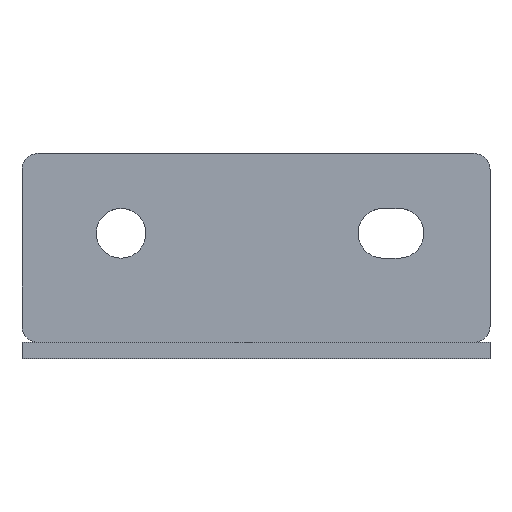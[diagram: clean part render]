
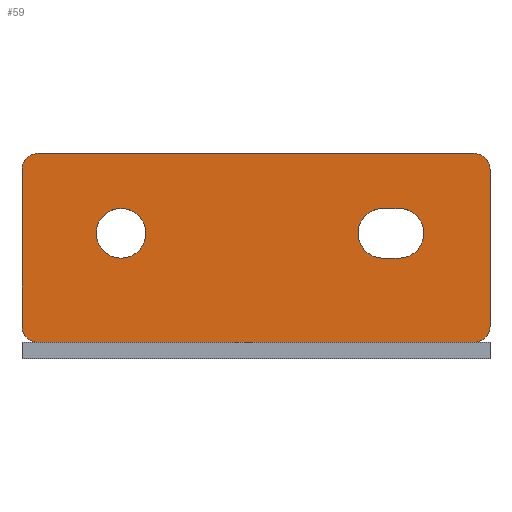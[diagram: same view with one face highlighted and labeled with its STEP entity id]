
A CAD part, top view. The second image highlights one B-rep face of the part: STEP entity #59.
In plain terms, the highlighted planar face has unit normal (0, 0, 1).
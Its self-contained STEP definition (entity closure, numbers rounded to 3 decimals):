
#21 = EDGE_CURVE('',#22,#24,#26,.T.);
#22 = VERTEX_POINT('',#23);
#23 = CARTESIAN_POINT('',(0.,3.,7.5));
#24 = VERTEX_POINT('',#25);
#25 = CARTESIAN_POINT('',(3.,0.,7.5));
#26 = CIRCLE('',#27,3.);
#27 = AXIS2_PLACEMENT_3D('',#28,#29,#30);
#28 = CARTESIAN_POINT('',(3.,3.,7.5));
#29 = DIRECTION('',(0.,0.,1.));
#30 = DIRECTION('',(1.,0.,-0.));
#59 = ADVANCED_FACE('',(#60,#120,#131),#167,.T.);
#60 = FACE_BOUND('',#61,.T.);
#61 = EDGE_LOOP('',(#62,#63,#71,#80,#88,#97,#105,#114));
#62 = ORIENTED_EDGE('',*,*,#21,.T.);
#63 = ORIENTED_EDGE('',*,*,#64,.T.);
#64 = EDGE_CURVE('',#24,#65,#67,.T.);
#65 = VERTEX_POINT('',#66);
#66 = CARTESIAN_POINT('',(83.7,0.,7.5));
#67 = LINE('',#68,#69);
#68 = CARTESIAN_POINT('',(3.,0.,7.5));
#69 = VECTOR('',#70,1.);
#70 = DIRECTION('',(1.,0.,-0.));
#71 = ORIENTED_EDGE('',*,*,#72,.T.);
#72 = EDGE_CURVE('',#65,#73,#75,.T.);
#73 = VERTEX_POINT('',#74);
#74 = CARTESIAN_POINT('',(86.7,3.,7.5));
#75 = CIRCLE('',#76,3.);
#76 = AXIS2_PLACEMENT_3D('',#77,#78,#79);
#77 = CARTESIAN_POINT('',(83.7,3.,7.5));
#78 = DIRECTION('',(0.,0.,1.));
#79 = DIRECTION('',(1.,0.,-0.));
#80 = ORIENTED_EDGE('',*,*,#81,.T.);
#81 = EDGE_CURVE('',#73,#82,#84,.T.);
#82 = VERTEX_POINT('',#83);
#83 = CARTESIAN_POINT('',(86.7,32.,7.5));
#84 = LINE('',#85,#86);
#85 = CARTESIAN_POINT('',(86.7,3.,7.5));
#86 = VECTOR('',#87,1.);
#87 = DIRECTION('',(-0.,1.,0.));
#88 = ORIENTED_EDGE('',*,*,#89,.T.);
#89 = EDGE_CURVE('',#82,#90,#92,.T.);
#90 = VERTEX_POINT('',#91);
#91 = CARTESIAN_POINT('',(83.7,35.,7.5));
#92 = CIRCLE('',#93,3.);
#93 = AXIS2_PLACEMENT_3D('',#94,#95,#96);
#94 = CARTESIAN_POINT('',(83.7,32.,7.5));
#95 = DIRECTION('',(0.,0.,1.));
#96 = DIRECTION('',(1.,0.,-0.));
#97 = ORIENTED_EDGE('',*,*,#98,.F.);
#98 = EDGE_CURVE('',#99,#90,#101,.T.);
#99 = VERTEX_POINT('',#100);
#100 = CARTESIAN_POINT('',(3.,35.,7.5));
#101 = LINE('',#102,#103);
#102 = CARTESIAN_POINT('',(3.,35.,7.5));
#103 = VECTOR('',#104,1.);
#104 = DIRECTION('',(1.,0.,-0.));
#105 = ORIENTED_EDGE('',*,*,#106,.T.);
#106 = EDGE_CURVE('',#99,#107,#109,.T.);
#107 = VERTEX_POINT('',#108);
#108 = CARTESIAN_POINT('',(0.,32.,7.5));
#109 = CIRCLE('',#110,3.);
#110 = AXIS2_PLACEMENT_3D('',#111,#112,#113);
#111 = CARTESIAN_POINT('',(3.,32.,7.5));
#112 = DIRECTION('',(0.,0.,1.));
#113 = DIRECTION('',(1.,0.,-0.));
#114 = ORIENTED_EDGE('',*,*,#115,.F.);
#115 = EDGE_CURVE('',#22,#107,#116,.T.);
#116 = LINE('',#117,#118);
#117 = CARTESIAN_POINT('',(0.,3.,7.5));
#118 = VECTOR('',#119,1.);
#119 = DIRECTION('',(-0.,1.,0.));
#120 = FACE_BOUND('',#121,.T.);
#121 = EDGE_LOOP('',(#122));
#122 = ORIENTED_EDGE('',*,*,#123,.F.);
#123 = EDGE_CURVE('',#124,#124,#126,.T.);
#124 = VERTEX_POINT('',#125);
#125 = CARTESIAN_POINT('',(22.95,20.2,7.5));
#126 = CIRCLE('',#127,4.6);
#127 = AXIS2_PLACEMENT_3D('',#128,#129,#130);
#128 = CARTESIAN_POINT('',(18.35,20.2,7.5));
#129 = DIRECTION('',(0.,0.,1.));
#130 = DIRECTION('',(1.,0.,-0.));
#131 = FACE_BOUND('',#132,.T.);
#132 = EDGE_LOOP('',(#133,#144,#152,#161));
#133 = ORIENTED_EDGE('',*,*,#134,.F.);
#134 = EDGE_CURVE('',#135,#137,#139,.T.);
#135 = VERTEX_POINT('',#136);
#136 = CARTESIAN_POINT('',(69.85,15.6,7.5));
#137 = VERTEX_POINT('',#138);
#138 = CARTESIAN_POINT('',(69.85,24.8,7.5));
#139 = CIRCLE('',#140,4.6);
#140 = AXIS2_PLACEMENT_3D('',#141,#142,#143);
#141 = CARTESIAN_POINT('',(69.85,20.2,7.5));
#142 = DIRECTION('',(0.,0.,1.));
#143 = DIRECTION('',(1.,0.,-0.));
#144 = ORIENTED_EDGE('',*,*,#145,.T.);
#145 = EDGE_CURVE('',#135,#146,#148,.T.);
#146 = VERTEX_POINT('',#147);
#147 = CARTESIAN_POINT('',(66.85,15.6,7.5));
#148 = LINE('',#149,#150);
#149 = CARTESIAN_POINT('',(55.1,15.6,7.5));
#150 = VECTOR('',#151,1.);
#151 = DIRECTION('',(-1.,-0.,0.));
#152 = ORIENTED_EDGE('',*,*,#153,.F.);
#153 = EDGE_CURVE('',#154,#146,#156,.T.);
#154 = VERTEX_POINT('',#155);
#155 = CARTESIAN_POINT('',(66.85,24.8,7.5));
#156 = CIRCLE('',#157,4.6);
#157 = AXIS2_PLACEMENT_3D('',#158,#159,#160);
#158 = CARTESIAN_POINT('',(66.85,20.2,7.5));
#159 = DIRECTION('',(0.,0.,1.));
#160 = DIRECTION('',(1.,0.,-0.));
#161 = ORIENTED_EDGE('',*,*,#162,.F.);
#162 = EDGE_CURVE('',#137,#154,#163,.T.);
#163 = LINE('',#164,#165);
#164 = CARTESIAN_POINT('',(55.1,24.8,7.5));
#165 = VECTOR('',#166,1.);
#166 = DIRECTION('',(-1.,-0.,0.));
#167 = PLANE('',#168);
#168 = AXIS2_PLACEMENT_3D('',#169,#170,#171);
#169 = CARTESIAN_POINT('',(43.35,17.5,7.5));
#170 = DIRECTION('',(0.,0.,1.));
#171 = DIRECTION('',(1.,0.,-0.));
